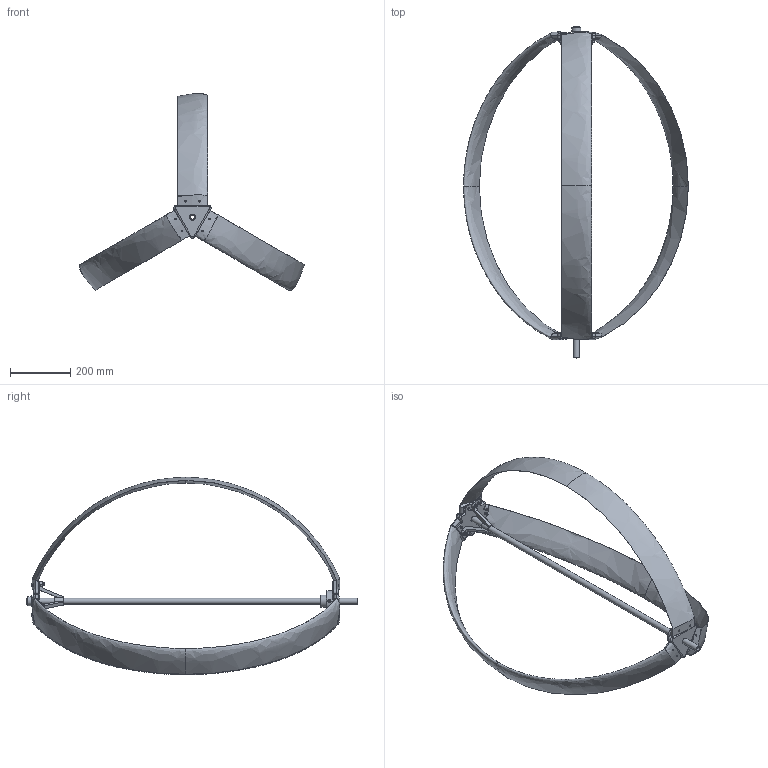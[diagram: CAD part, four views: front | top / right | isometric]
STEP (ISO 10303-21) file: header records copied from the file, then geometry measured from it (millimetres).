
FILE_DESCRIPTION(/* description */ (''),/* implementation_level */ '2;1');
FILE_NAME(/* name */ 'Assieme_darrius_curve_big.stp',/* time_stamp */ '2025-01-13T18:20:55+01:00',/* author */ ('R5800u'),/* organization */ (''),/* preprocessor_version */ 'ST-DEVELOPER v20',/* originating_system */ 'Autodesk Inventor 2025',/* authorisation */ '');
FILE_SCHEMA (('AUTOMOTIVE_DESIGN { 1 0 10303 214 3 1 1 }'));
Length unit declared in the file: millimetre
Products named in the file (14): Assieme_darrius_curve; darrius_profilo_pala_curva; blocco_curvo1; AS 1112 - M5; AS 1112 - M4; blocco_albero; blocco_superiore_curvo; albero; AS 1420 - 1973 - M5 x 25; AS 1420 - 1973 - M5 x 16; AS 1285 - M20; AS 1427 - M5 x 25; blocco_curvo1_MIR1; AS 1427 - M5 x 30
Assembly tree (29 placements, depth 2):
  Assieme_darrius_curve
    darrius_profilo_pala_curva  x3
    blocco_curvo1
    AS 1427 - M5 x 30  x5
    AS 1112 - M5
    AS 1112 - M4  x6
    blocco_albero
    blocco_superiore_curvo
    albero
    AS 1420 - 1973 - M5 x 25  x4
    AS 1420 - 1973 - M5 x 16  x3
    AS 1285 - M20
    AS 1427 - M5 x 25
    blocco_curvo1_MIR1
Bounding box: 744.9 x 1100 x 654.06 mm (x, y, z)
Volume: 5686779.2 mm3; surface area: 1086477 mm2
Topology: 29 solids, 29 shells, 741 faces, 1828 edges, 1164 vertices
Faces by surface type: plane 306, cone 203, cylinder 143, torus 50, bspline 33, sphere 6
Full cylindrical faces by diameter (mm): 3.242 x6, 4.134 x10, 4.51 x6, 5 x25, 5.134 x2, 5.3 x16, 8.5 x7, 10 x4, 11 x2, 14 x1, 17.294 x1, 20 x5, 26 x1, 30 x1, 40 x1, 70 x1
Entity records: 16507 total; most frequent: CARTESIAN_POINT 7180, DIRECTION 1873, ORIENTED_EDGE 1800, EDGE_CURVE 900, AXIS2_PLACEMENT_3D 755, VERTEX_POINT 574, EDGE_LOOP 458, FACE_OUTER_BOUND 365
